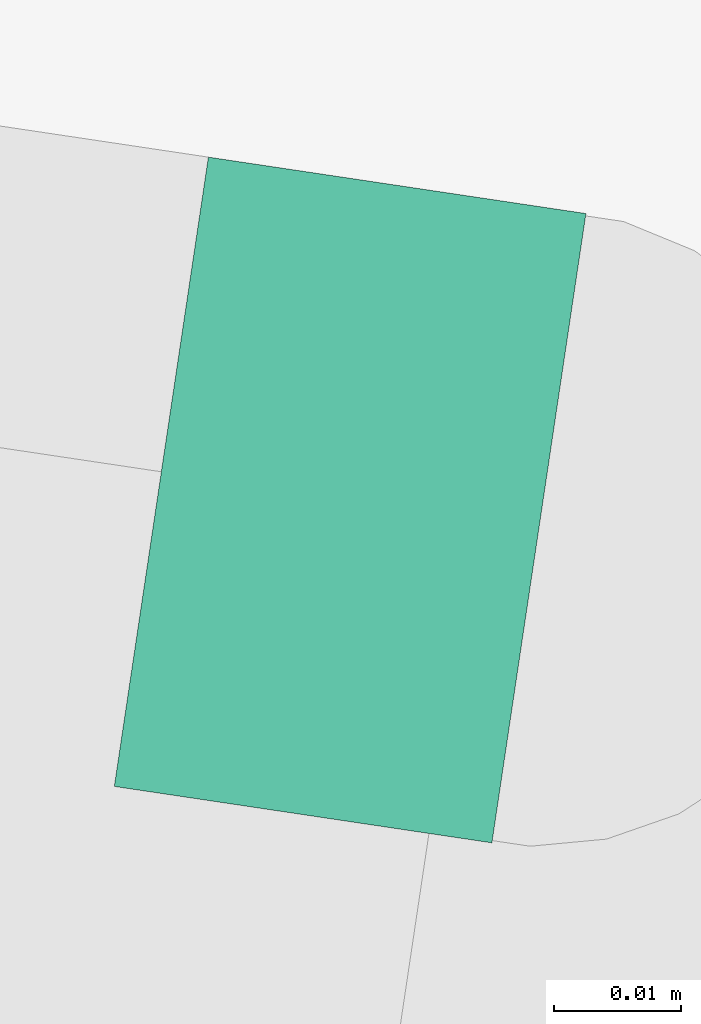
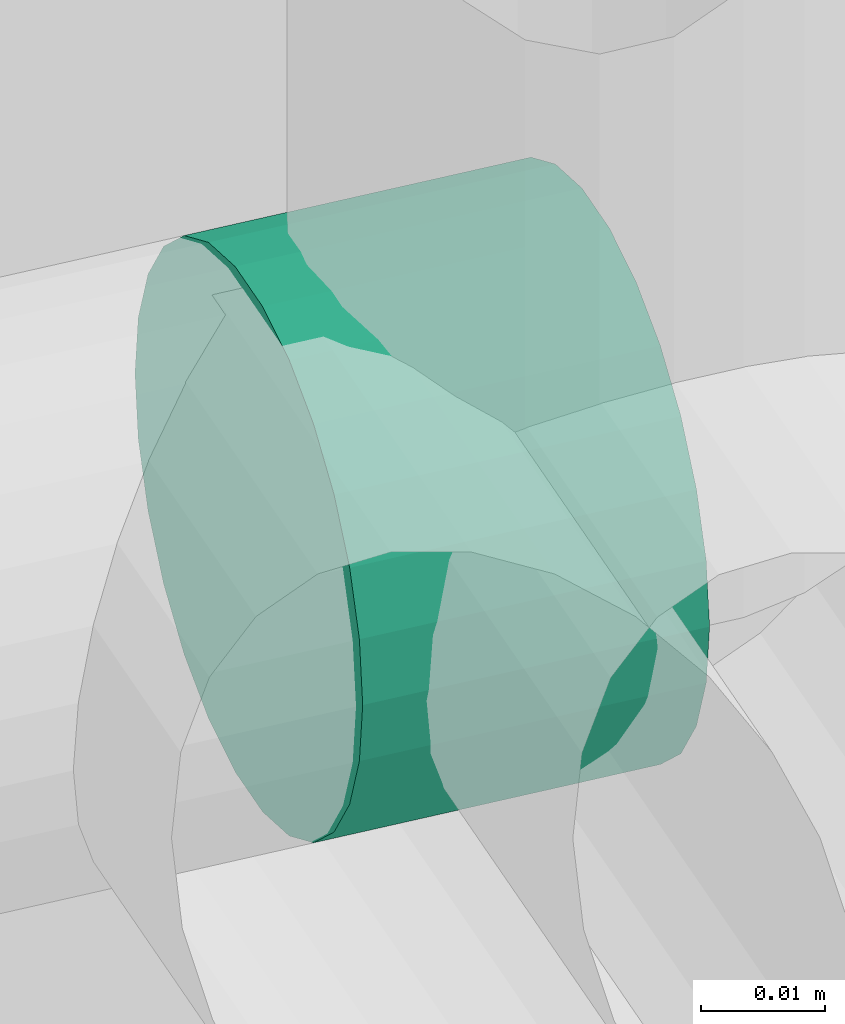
# One storey, part 140 of 142: 1 pipe segment.
"""IFC4 building model written with IfcOpenShell, lengths in metres."""

import ifcopenshell
import ifcopenshell.guid

model = None  # the IFC model being written
_history = None  # IfcOwnerHistory: only IFC2X3 demands one
_inside = {}  # id of a spatial element -> (the spatial element, [elements in it])
_under = {}  # id of a project, library or spatial element -> (it, [spatial elements below it])
_declared = {}  # id of a project -> (the project, [libraries it declares])
_typed = {}  # id of a type object -> (the type object, [elements of that type])
_made_of = {}  # id of a material, layer set ... -> (it, [elements and type objects made of it])


def new_model(schema):
    """Start an empty IFC model of exactly this schema.

    Asked for "IFC4X3", IfcOpenShell would pick the latest addendum, in which some entities
    have other attributes; the version numbers below select the first issue.
    IFC2X3 requires an IfcOwnerHistory on every rooted entity: one is made here for all.
    """
    global model, _history
    if schema == "IFC4X3":
        model = ifcopenshell.file(schema_version=(4, 3, 0, 0))
    else:
        model = ifcopenshell.file(schema=schema)
    _inside.clear()
    _under.clear()
    _declared.clear()
    _typed.clear()
    _made_of.clear()
    _history = None
    if model.schema == "IFC2X3":
        org = make("IfcOrganization", Name="unknown")
        user = make(
            "IfcPersonAndOrganization",
            ThePerson=make("IfcPerson", FamilyName="unknown"),
            TheOrganization=org,
        )
        app = make(
            "IfcApplication",
            ApplicationDeveloper=org,
            Version="unknown",
            ApplicationFullName="unknown",
            ApplicationIdentifier="unknown",
        )
        _history = make(
            "IfcOwnerHistory",
            OwningUser=user,
            OwningApplication=app,
            ChangeAction="ADDED",
            CreationDate=0,
        )
    return model


def make(cls, **values):
    """One entity of the class cls with the attributes given. An attribute that is None is left unset."""
    return model.create_entity(
        cls, **{name: value for name, value in values.items() if value is not None}
    )


def rooted(cls, **values):
    """An entity with a GlobalId (a new one), such as an element, a storey or a relation."""
    return make(cls, GlobalId=ifcopenshell.guid.new(), OwnerHistory=_history, **values)


def si_unit(unit_type, name, prefix=None):
    """IfcSIUnit, for example si_unit("LENGTHUNIT", "METRE", prefix="MILLI")."""
    return make("IfcSIUnit", UnitType=unit_type, Prefix=prefix, Name=name)


def assignment(units):
    """IfcUnitAssignment: the units of a project."""
    return None if units is None else make("IfcUnitAssignment", Units=units)


def point(xyz):
    """IfcCartesianPoint."""
    return None if xyz is None else make("IfcCartesianPoint", Coordinates=xyz)


def direction(xyz):
    """IfcDirection."""
    return None if xyz is None else make("IfcDirection", DirectionRatios=xyz)


def frame(location, z_axis=None, x_axis=None):
    """IfcAxis2Placement3D, a coordinate frame: its origin and axes. An axis left out is left unset."""
    return make(
        "IfcAxis2Placement3D",
        Location=point(location),
        Axis=direction(z_axis),
        RefDirection=direction(x_axis),
    )


def origin_with_axes():
    """The frame at (0, 0, 0) with the z axis (0, 0, 1) and the x axis (1, 0, 0) written out."""
    return frame((0.0, 0.0, 0.0), z_axis=(0.0, 0.0, 1.0), x_axis=(1.0, 0.0, 0.0))


def place(relative_to, where):
    """IfcLocalPlacement: puts the frame where relative to a parent placement (None: the world)."""
    return make(
        "IfcLocalPlacement", PlacementRelTo=relative_to, RelativePlacement=where
    )


def context(
    kind, dimensions, precision=None, world=None, true_north=None, identifier=None
):
    """IfcGeometricRepresentationContext, for example the 3D "Model" context."""
    return make(
        "IfcGeometricRepresentationContext",
        ContextIdentifier=identifier,
        ContextType=kind,
        CoordinateSpaceDimension=dimensions,
        Precision=precision,
        WorldCoordinateSystem=world,
        TrueNorth=true_north,
    )


def subcontext(parent, identifier, kind, view, scale=None):
    """IfcGeometricRepresentationSubContext, for example "Body" below "Model"."""
    return make(
        "IfcGeometricRepresentationSubContext",
        ContextIdentifier=identifier,
        ContextType=kind,
        ParentContext=parent,
        TargetScale=scale,
        TargetView=view,
    )


def project(units=None, contexts=None):
    """IfcProject with its units and contexts."""
    return rooted(
        "IfcProject",
        Name="project",
        RepresentationContexts=contexts,
        UnitsInContext=assignment(units),
    )


def spatial(cls, under=None, at=None, **own):
    """A site, building, storey or space (cls), placed at a placement, below another one or the project."""
    s = rooted(cls, ObjectPlacement=at, **own)
    if under is not None:
        _under.setdefault(under.id(), (under, []))[1].append(s)
    return s


def profile(cls, at=None, kind="AREA", **sizes):
    """A parametric profile (cls). Its sizes go by their IFC names, for example OverallWidth=200.0."""
    return make(cls, ProfileType=kind, Position=at, **sizes)


def circle(**sizes):
    """IfcCircleProfileDef."""
    return profile("IfcCircleProfileDef", **sizes)


def extrude(swept, where, along, depth):
    """IfcExtrudedAreaSolid: the profile swept, set in the frame where, extruded along a direction by depth."""
    return make(
        "IfcExtrudedAreaSolid",
        SweptArea=swept,
        Position=where,
        ExtrudedDirection=direction(along),
        Depth=depth,
    )


def shape(context_of_items, identifier, shape_type, items):
    """IfcShapeRepresentation: the items that make up one representation, for example the "Body"."""
    return make(
        "IfcShapeRepresentation",
        ContextOfItems=context_of_items,
        RepresentationIdentifier=identifier,
        RepresentationType=shape_type,
        Items=items,
    )


def material(Name=None, Category=None):
    """IfcMaterial."""
    return make("IfcMaterial", Name=Name, Category=Category)


def material_profile(
    of_material, cross_section, Name=None, Category=None, Priority=None
):
    """IfcMaterialProfile: a cross section and its material."""
    return make(
        "IfcMaterialProfile",
        Name=Name,
        Material=of_material,
        Profile=cross_section,
        Priority=Priority,
        Category=Category,
    )


def profile_set(profiles, Name=None, composite=None):
    """IfcMaterialProfileSet."""
    return make(
        "IfcMaterialProfileSet",
        Name=Name,
        MaterialProfiles=profiles,
        CompositeProfile=composite,
    )


def profile_usage(for_profile_set, cardinal=None, extent=None):
    """IfcMaterialProfileSetUsage: how a profile set lies along its element."""
    return make(
        "IfcMaterialProfileSetUsage",
        ForProfileSet=for_profile_set,
        CardinalPoint=cardinal,
        ReferenceExtent=extent,
    )


def made_of(thing, what):
    """Note that an element or type object is made of a material, layer set ...; save() writes the relation."""
    if what is not None:
        _made_of.setdefault(what.id(), (what, []))[1].append(thing)
    return thing


def type_object(cls, material=None, **own):
    """A type object (cls), such as IfcWallType, which elements share."""
    return made_of(rooted(cls, **own), material)


def element(
    cls,
    number,
    at=None,
    inside=None,
    cuts=None,
    type_object=None,
    material=None,
    context=None,
    identifier="Body",
    shape_type=None,
    held_by="IfcProductDefinitionShape",
    body=None,
    shapes=None,
    **own,
):
    """One element of the class cls, such as IfcWall. Its Tag is "e" and its number.

    at: its placement. inside: the storey or other place that contains it. cuts: it is an
    opening in that element (IfcRelVoidsElement). A single representation is given by context,
    identifier, shape_type and body (its items); several are given by shapes. held_by: the class
    of the entity that holds the representations. save() writes the other relations.
    """
    e = rooted(cls, Tag="e%d" % number, ObjectPlacement=at, **own)
    if body is not None:
        shapes = [shape(context, identifier, shape_type, body)]
    if shapes is not None:
        e.Representation = make(held_by, Representations=shapes)
    if inside is not None:
        _inside.setdefault(inside.id(), (inside, []))[1].append(e)
    if cuts is not None:
        rooted(
            "IfcRelVoidsElement", RelatingBuildingElement=cuts, RelatedOpeningElement=e
        )
    if type_object is not None:
        _typed.setdefault(type_object.id(), (type_object, []))[1].append(e)
    return made_of(e, material)


def aggregate(whole, parts):
    """IfcRelAggregates: a whole, such as a stair, and the parts it consists of."""
    return rooted("IfcRelAggregates", RelatingObject=whole, RelatedObjects=parts)


def save(model, path):
    """Write the relations noted so far, then the file.

    IfcRelAggregates (storeys below a building ...), IfcRelContainedInSpatialStructure (elements
    in a storey), IfcRelDefinesByType, IfcRelAssociatesMaterial and IfcRelDeclares: one each for
    every whole, place, type object, material and project.
    """
    for whole, parts in _under.values():
        aggregate(whole, parts)
    for where, things in _inside.values():
        rooted(
            "IfcRelContainedInSpatialStructure",
            RelatedElements=things,
            RelatingStructure=where,
        )
    for kind, things in _typed.values():
        rooted("IfcRelDefinesByType", RelatedObjects=things, RelatingType=kind)
    for what, things in _made_of.values():
        rooted("IfcRelAssociatesMaterial", RelatedObjects=things, RelatingMaterial=what)
    for by, libraries in _declared.values():
        rooted("IfcRelDeclares", RelatingContext=by, RelatedDefinitions=libraries)
    model.write(path)


model = new_model("IFC4")

# Units and contexts
model_context = context("Model", 3, precision=1e-05, world=origin_with_axes(), true_north=direction((0.0, 1.0)))
body_context = subcontext(model_context, "Body", "Model", "MODEL_VIEW")
ifc_project = project(units=[si_unit("VOLUMEUNIT", "CUBIC_METRE"), si_unit("LENGTHUNIT", "METRE"), si_unit("AREAUNIT", "SQUARE_METRE")], contexts=[model_context])

# Site, building, storey
site_placement = place(None, origin_with_axes())
site = spatial("IfcSite", under=ifc_project, at=site_placement, Name="Lares · Rua das Mercês · artigo 4771")
building_placement = place(site_placement, frame((12.0, 10.2, 13.9), z_axis=(0.0, 0.0, 1.0), x_axis=(0.989015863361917, -0.147809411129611, 0.0)))
building = spatial("IfcBuilding", under=site, at=building_placement, Name="Casa Sobreposta")
storey_placement = place(building_placement, origin_with_axes())
storey = spatial("IfcBuildingStorey", under=building, at=storey_placement, Name="00 · Habitação e estacionamento", Elevation=13.9)

# Pipe segment
ifc_material = material(Name="hot · traçado de estudo", Category="schematic services")
ifc_material_profile = material_profile(ifc_material, circle(Radius=0.025))
ifc_profile_set = profile_set([ifc_material_profile], Name="D0.05")
ifc_profile_usage = profile_usage(ifc_profile_set)
pipe_segment_type = type_object("IfcPipeSegmentType", Name="D0.05 / hot", PredefinedType="NOTDEFINED", material=ifc_profile_set)
pipe_segment_placement = place(storey_placement, frame((11.05, 6.04, 0.65), z_axis=(-1.0, 0.0, 0.0), x_axis=(0.0, 1.0, 0.0)))
element("IfcPipeSegment", 1, at=pipe_segment_placement, inside=storey, type_object=pipe_segment_type, material=ifc_profile_usage, Name="AQ · Banheira", context=body_context, shape_type="SweptSolid", body=[
    extrude(circle(Radius=0.025), origin_with_axes(), (0.0, 0.0, 1.0), 0.0300000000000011),
])

save(model, "model.ifc")
